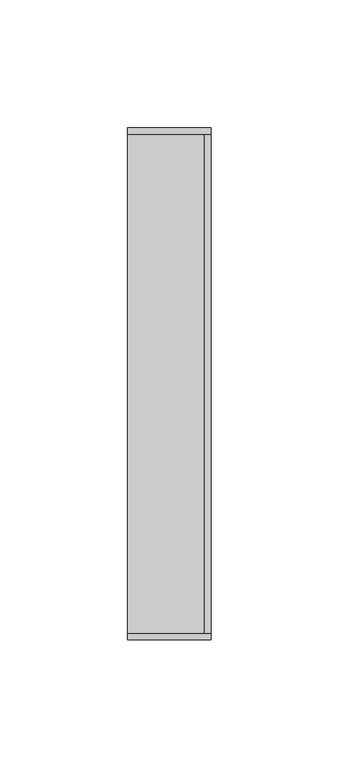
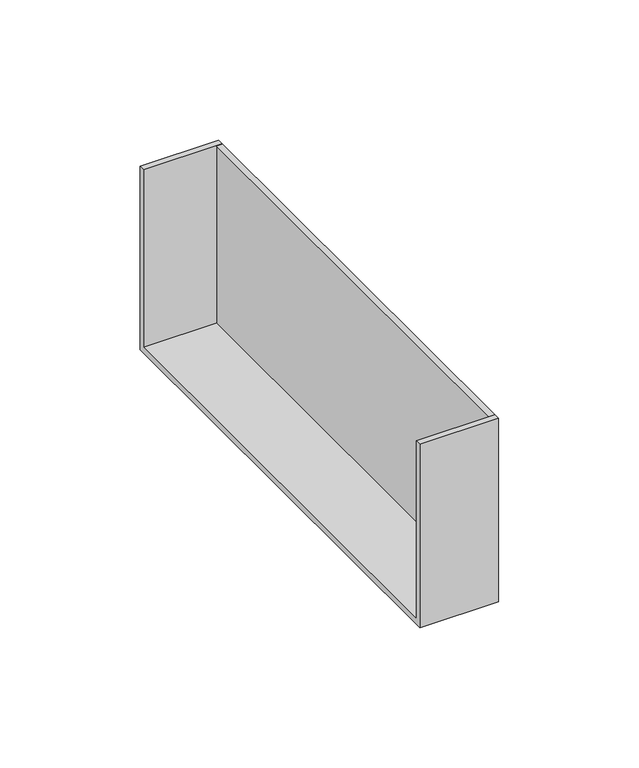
"""IFC4 building model written with IfcOpenShell, lengths in millimetres: cable carrier fitting geometry, КНС_ЗаглушкаТорцеваяLAN_ILC_DKC : Заглушка торцевая LAN_DKC."""

from ifc_helpers import new_model, si_unit, frame, origin, place, context, project, spatial, polyline, outline, extrude, source, transform, mapped, element, save


def cable_carrier_fitting_06fe3dde(model_context):
    return source(origin(), model_context, "Body", "SweptSolid", [
        extrude(outline(polyline([(100.0, -40.0), (-100.0, -40.0), (-100.0, 40.0), (-97.5, 40.0), (-97.5, -37.5), (97.5, -37.5), (97.5, 40.0), (100.0, 40.0), (100.0, -40.0)])), frame((-32.5, 0.0, 0.0), z_axis=(1.0, 0.0, 0.0), x_axis=(0.0, 1.0, 0.0)), (0.0, 0.0, 1.0), 32.5),
        extrude(outline(polyline([(0.0, 97.5), (0.0, -97.5), (-2.5, -97.5), (-2.5, 97.5), (0.0, 97.5)])), frame((0.0, 0.0, -40.0), z_axis=(0.0, 0.0, 1.0), x_axis=(1.0, 0.0, 0.0)), (0.0, 0.0, 1.0), 80.0),
    ])


if __name__ == "__main__":
    model = new_model("IFC4")
    model_context = context("Model", 3, world=origin())
    ifc_project = project(units=[si_unit("LENGTHUNIT", "METRE", prefix="MILLI")], contexts=[model_context])
    site = spatial("IfcSite", under=ifc_project)
    building = spatial("IfcBuilding", under=site)
    placement = place(None, origin())
    cable_carrier_fitting_shape = cable_carrier_fitting_06fe3dde(model_context)
    element("IfcCableCarrierFitting", 1, ObjectType="КНС_ЗаглушкаТорцеваяLAN_ILC_DKC : Заглушка торцевая LAN_DKC", at=placement, inside=building, context=model_context, shape_type="MappedRepresentation", body=[
        mapped(cable_carrier_fitting_shape, transform((0.0, 0.0, 0.0), x_axis=(1.0, 0.0, 0.0), y_axis=(0.0, 1.0, 0.0), z_axis=(0.0, 0.0, 1.0))),
    ])
    save(model, "model.ifc")
